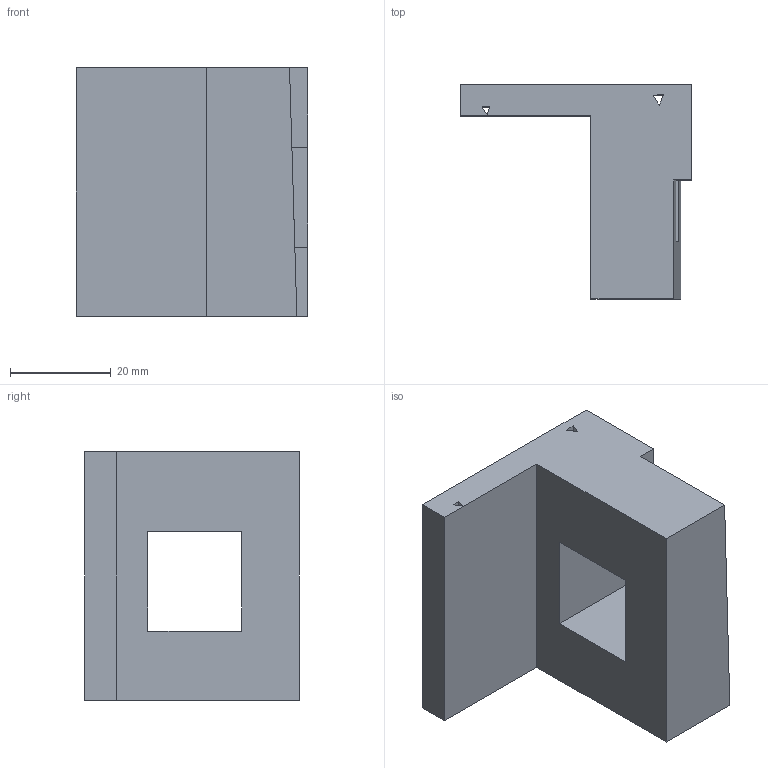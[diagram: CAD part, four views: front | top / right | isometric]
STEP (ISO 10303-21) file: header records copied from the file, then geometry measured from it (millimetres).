
FILE_DESCRIPTION(('Open CASCADE Model'),'2;1');
FILE_NAME('Open CASCADE Shape Model','2021-05-10T23:57:24',('Author'),( 'Open CASCADE'),'Open CASCADE STEP processor 7.4','Open CASCADE 7.4' ,'Unknown');
FILE_SCHEMA(('AUTOMOTIVE_DESIGN { 1 0 10303 214 1 1 1 1 }'));
Length unit declared in the file: millimetre
Products named in the file (1): Open CASCADE STEP translator 7.4 113
Bounding box: 45.99 x 42.5 x 49.38 mm (x, y, z)
Volume: 39741 mm3; surface area: 11818 mm2
Topology: 1 solids, 1 shells, 21 faces, 60 edges, 40 vertices
Faces by surface type: plane 21
Entity records: 1460 total; most frequent: CARTESIAN_POINT 258, DIRECTION 208, LINE 164, VECTOR 164, ORIENTED_EDGE 120, PCURVE 120, DEFINITIONAL_REPRESENTATION 120, EDGE_CURVE 60
